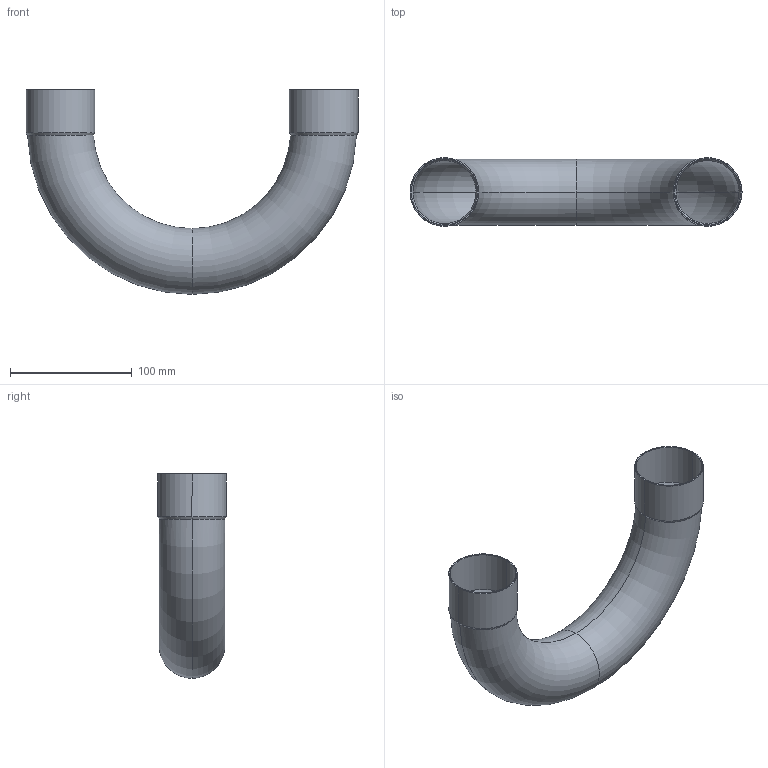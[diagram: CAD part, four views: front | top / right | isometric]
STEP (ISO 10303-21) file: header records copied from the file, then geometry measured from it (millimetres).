
FILE_DESCRIPTION((''),'2;1');
FILE_NAME('C:\sanha_work\5130\f\1506054.stp','2005-10-21T17:22:38',('Kris'),(''),'Autodesk Inventor 8','Autodesk Inventor 8','');
FILE_SCHEMA(('AUTOMOTIVE_DESIGN { 1 0 10303 214 1 1 1 1 }'));
Length unit declared in the file: millimetre
Products named in the file (1): 1506054
Bounding box: 272.4 x 56.4 x 168 mm (x, y, z)
Volume: 81443.9 mm3; surface area: 136097.5 mm2
Topology: 1 solids, 1 shells, 34 faces, 68 edges, 36 vertices
Faces by surface type: cone 12, bspline 9, torus 8, cylinder 4, plane 1
Entity records: 1135 total; most frequent: CARTESIAN_POINT 434, DIRECTION 148, ORIENTED_EDGE 136, EDGE_CURVE 68, AXIS2_PLACEMENT_3D 62, VERTEX_POINT 36, CIRCLE 36, EDGE_LOOP 36
